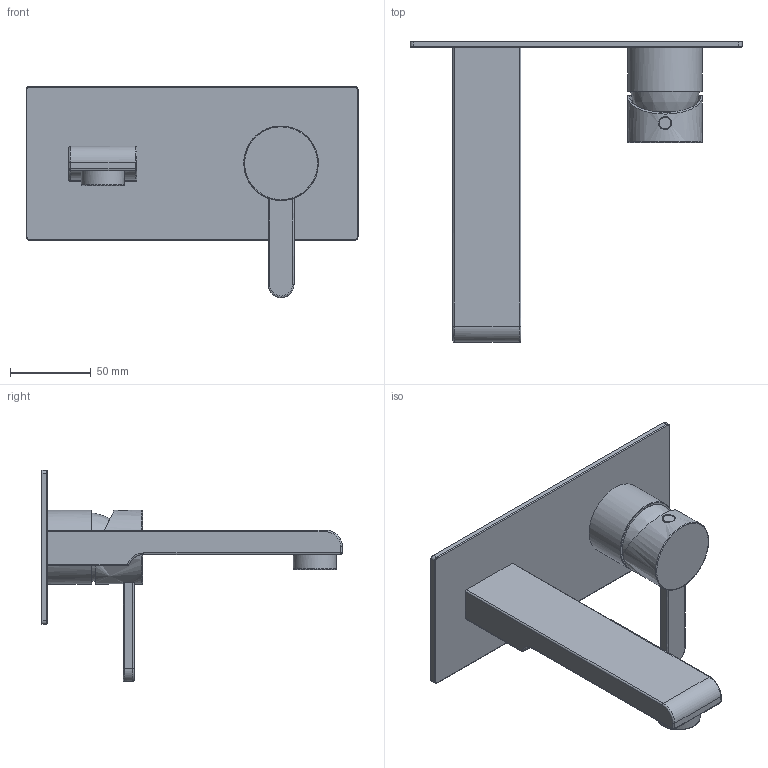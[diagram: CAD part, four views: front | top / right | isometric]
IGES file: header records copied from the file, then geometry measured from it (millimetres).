
Global section: file name: edb3575f-7966-41c3-8f28-0d1c4900f9b5; native system: unknown; preprocessor: unknown; author: unknown; organization: unknown; date: 20200212.081147; units: millimetre
Bounding box: 205 x 185.5 x 130.49 mm (x, y, z)
Volume: 279615.4 mm3; surface area: 93754.2 mm2
Topology: 8 solids, 8 shells, 140 faces, 354 edges, 229 vertices
Faces by surface type: bspline 140
